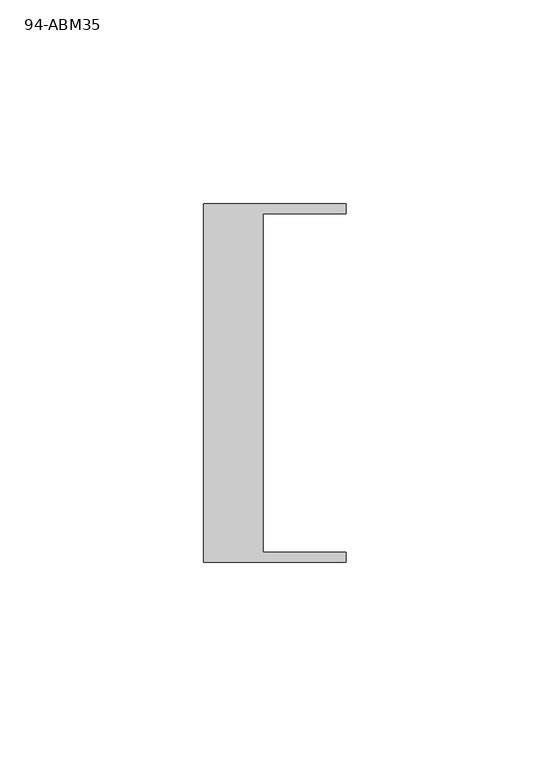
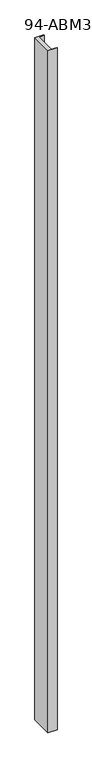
"""IFC4 building model written with IfcOpenShell, lengths in millimetres: plate geometry, END_FILLER-ABM_U-MUR-M : 94-ABM35."""

from ifc_helpers import new_model, si_unit, origin, origin_with_axes, place, context, project, spatial, polyline, outline, extrude, source, transform, mapped, element, save


def plate_94_abm35_25a5ff41(model_context):
    return source(origin(), model_context, "Body", "SweptSolid", [
        extrude(outline(polyline([(27.7, -44.0), (-7.3, -44.0), (-7.3, 44.0), (27.7, 44.0), (27.7, 41.5), (7.3, 41.5), (7.3, -41.5), (27.7, -41.5), (27.7, -44.0)])), origin_with_axes(), (0.0, 0.0, 1.0), 2800.0),
    ])


if __name__ == "__main__":
    model = new_model("IFC4")
    model_context = context("Model", 3, world=origin())
    ifc_project = project(units=[si_unit("LENGTHUNIT", "METRE", prefix="MILLI")], contexts=[model_context])
    site = spatial("IfcSite", under=ifc_project)
    building = spatial("IfcBuilding", under=site)
    placement = place(None, origin())
    plate_94_abm35_shape = plate_94_abm35_25a5ff41(model_context)
    element("IfcPlate", 1, ObjectType="END_FILLER-ABM_U-MUR-M : 94-ABM35", at=placement, inside=building, context=model_context, shape_type="MappedRepresentation", body=[
        mapped(plate_94_abm35_shape, transform((0.0, 0.0, 0.0), x_axis=(1.0, 0.0, 0.0), y_axis=(0.0, 1.0, 0.0), z_axis=(0.0, 0.0, 1.0))),
    ])
    save(model, "model.ifc")
